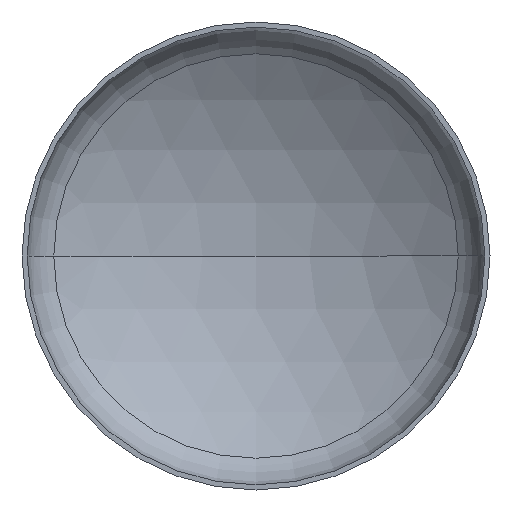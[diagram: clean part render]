
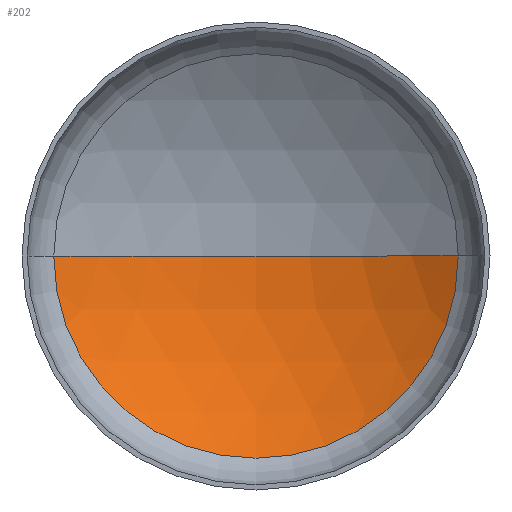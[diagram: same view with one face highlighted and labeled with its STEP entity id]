
A CAD part, front view. The second image highlights one B-rep face of the part: STEP entity #202.
In plain terms, the highlighted spherical face has radius 212.4 mm.
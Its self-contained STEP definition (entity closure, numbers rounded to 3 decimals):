
#5 = VERTEX_POINT ( 'NONE', #46 ) ;
#44 = AXIS2_PLACEMENT_3D ( 'NONE', #339, #280, #216 ) ;
#46 = CARTESIAN_POINT ( 'NONE',  ( 117.96, 51.233, 0. ) ) ;
#49 = DIRECTION ( 'NONE',  ( -1., 0., 0. ) ) ;
#53 = ORIENTED_EDGE ( 'NONE', *, *, #374, .F. ) ;
#54 = CARTESIAN_POINT ( 'NONE',  ( -117.96, 51.233, 0. ) ) ;
#55 = CIRCLE ( 'NONE', #87, 212.4 ) ;
#62 = EDGE_CURVE ( 'NONE', #5, #165, #333, .T. ) ;
#82 = ORIENTED_EDGE ( 'NONE', *, *, #101, .T. ) ;
#87 = AXIS2_PLACEMENT_3D ( 'NONE', #123, #411, #251 ) ;
#93 = AXIS2_PLACEMENT_3D ( 'NONE', #356, #200, #49 ) ;
#101 = EDGE_CURVE ( 'NONE', #5, #159, #307, .T. ) ;
#123 = CARTESIAN_POINT ( 'NONE',  ( 0., -125.4, 0. ) ) ;
#131 = EDGE_LOOP ( 'NONE', ( #293, #82, #53 ) ) ;
#159 = VERTEX_POINT ( 'NONE', #308 ) ;
#165 = VERTEX_POINT ( 'NONE', #54 ) ;
#200 = DIRECTION ( 'NONE',  ( 0., 1., 0. ) ) ;
#202 = ADVANCED_FACE ( 'NONE', ( #272 ), #398, .F. ) ;
#216 = DIRECTION ( 'NONE',  ( -1., 0., 0. ) ) ;
#231 = AXIS2_PLACEMENT_3D ( 'NONE', #241, #403, #311 ) ;
#241 = CARTESIAN_POINT ( 'NONE',  ( 0., -125.4, 0. ) ) ;
#251 = DIRECTION ( 'NONE',  ( -1., 0., 0. ) ) ;
#272 = FACE_OUTER_BOUND ( 'NONE', #131, .T. ) ;
#280 = DIRECTION ( 'NONE',  ( 0., 0., 1. ) ) ;
#293 = ORIENTED_EDGE ( 'NONE', *, *, #62, .F. ) ;
#307 = CIRCLE ( 'NONE', #231, 212.4 ) ;
#308 = CARTESIAN_POINT ( 'NONE',  ( 0., 87., 0. ) ) ;
#311 = DIRECTION ( 'NONE',  ( 1., 0., 0. ) ) ;
#333 = CIRCLE ( 'NONE', #93, 117.96 ) ;
#339 = CARTESIAN_POINT ( 'NONE',  ( 0., -125.4, 0. ) ) ;
#356 = CARTESIAN_POINT ( 'NONE',  ( 0., 51.233, 0. ) ) ;
#374 = EDGE_CURVE ( 'NONE', #165, #159, #55, .T. ) ;
#398 = SPHERICAL_SURFACE ( 'NONE', #44, 212.4 ) ;
#403 = DIRECTION ( 'NONE',  ( 0., 0., 1. ) ) ;
#411 = DIRECTION ( 'NONE',  ( 0., 0., -1. ) ) ;
